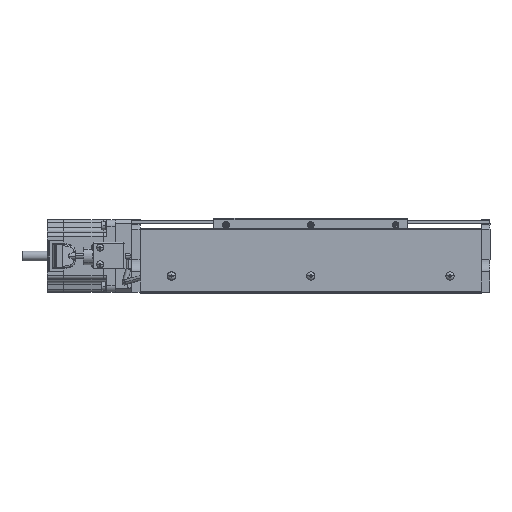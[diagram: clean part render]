
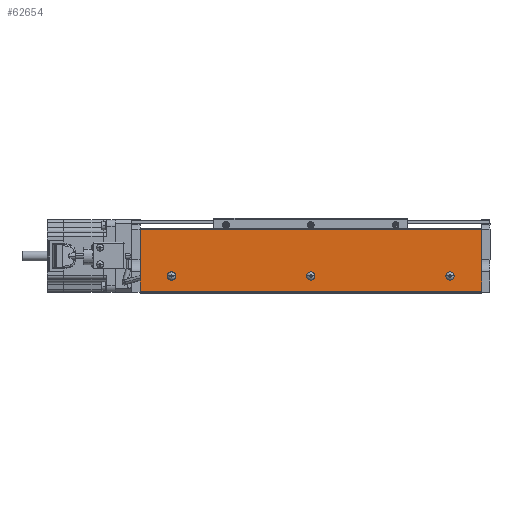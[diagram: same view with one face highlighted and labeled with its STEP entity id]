
A CAD part, front view. The second image highlights one B-rep face of the part: STEP entity #62654.
In plain terms, the highlighted planar face has unit normal (0, -1, 0).
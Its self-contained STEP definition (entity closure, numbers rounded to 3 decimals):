
#312 = ORIENTED_EDGE ( 'NONE', *, *, #68810, .F. ) ;
#1602 = EDGE_LOOP ( 'NONE', ( #312, #11158 ) ) ;
#2568 = EDGE_CURVE ( 'NONE', #46973, #62988, #3007, .T. ) ;
#3007 = LINE ( 'NONE', #74241, #3954 ) ;
#3154 = EDGE_CURVE ( 'NONE', #19044, #29343, #27892, .T. ) ;
#3913 = CARTESIAN_POINT ( 'NONE',  ( 229.676, -212.212, 67. ) ) ;
#3954 = VECTOR ( 'NONE', #21233, 1000. ) ;
#4216 = AXIS2_PLACEMENT_3D ( 'NONE', #46602, #16348, #34142 ) ;
#4936 = DIRECTION ( 'NONE',  ( 0., -1., 0. ) ) ;
#5070 = CIRCLE ( 'NONE', #75294, 3.45 ) ;
#5135 = ORIENTED_EDGE ( 'NONE', *, *, #59334, .F. ) ;
#6083 = AXIS2_PLACEMENT_3D ( 'NONE', #46010, #27389, #74411 ) ;
#6442 = EDGE_LOOP ( 'NONE', ( #70426, #60240 ) ) ;
#7842 = DIRECTION ( 'NONE',  ( 0., -1., 0. ) ) ;
#9581 = CARTESIAN_POINT ( 'NONE',  ( 229.676, -212.212, 67. ) ) ;
#10881 = CARTESIAN_POINT ( 'NONE',  ( 485.676, -212.212, 79.5 ) ) ;
#11158 = ORIENTED_EDGE ( 'NONE', *, *, #47189, .F. ) ;
#12195 = DIRECTION ( 'NONE',  ( 1., 0., 0. ) ) ;
#12552 = CARTESIAN_POINT ( 'NONE',  ( 229.676, -212.212, 118. ) ) ;
#14531 = ORIENTED_EDGE ( 'NONE', *, *, #47085, .T. ) ;
#15801 = VERTEX_POINT ( 'NONE', #73662 ) ;
#16348 = DIRECTION ( 'NONE',  ( 0., -1., 0. ) ) ;
#16663 = CIRCLE ( 'NONE', #6083, 3.45 ) ;
#18165 = CARTESIAN_POINT ( 'NONE',  ( 511.676, -212.212, 119. ) ) ;
#18557 = EDGE_CURVE ( 'NONE', #22705, #15801, #46680, .T. ) ;
#19044 = VERTEX_POINT ( 'NONE', #42120 ) ;
#19672 = EDGE_LOOP ( 'NONE', ( #26114, #14531, #24363, #68625 ) ) ;
#20295 = DIRECTION ( 'NONE',  ( 0., -1., 0. ) ) ;
#21233 = DIRECTION ( 'NONE',  ( 0., 0., -1. ) ) ;
#21409 = DIRECTION ( 'NONE',  ( 1., 0., 0. ) ) ;
#21536 = CARTESIAN_POINT ( 'NONE',  ( 367.226, -212.212, 79.5 ) ) ;
#22705 = VERTEX_POINT ( 'NONE', #37145 ) ;
#24363 = ORIENTED_EDGE ( 'NONE', *, *, #18557, .F. ) ;
#25357 = CARTESIAN_POINT ( 'NONE',  ( 229.676, -212.212, 118. ) ) ;
#25929 = CARTESIAN_POINT ( 'NONE',  ( 374.126, -212.212, 79.5 ) ) ;
#26114 = ORIENTED_EDGE ( 'NONE', *, *, #2568, .T. ) ;
#27389 = DIRECTION ( 'NONE',  ( 0., -1., 0. ) ) ;
#27892 = CIRCLE ( 'NONE', #58273, 3.45 ) ;
#29286 = CARTESIAN_POINT ( 'NONE',  ( 489.126, -212.212, 79.5 ) ) ;
#29343 = VERTEX_POINT ( 'NONE', #29286 ) ;
#29471 = DIRECTION ( 'NONE',  ( 0., -1., 0. ) ) ;
#29930 = EDGE_CURVE ( 'NONE', #41614, #65314, #38230, .T. ) ;
#33120 = FACE_BOUND ( 'NONE', #61591, .T. ) ;
#34142 = DIRECTION ( 'NONE',  ( 0., 0., -1. ) ) ;
#34392 = PLANE ( 'NONE',  #4216 ) ;
#34880 = AXIS2_PLACEMENT_3D ( 'NONE', #59990, #36690, #65924 ) ;
#36690 = DIRECTION ( 'NONE',  ( 0., -1., 0. ) ) ;
#36952 = VERTEX_POINT ( 'NONE', #25929 ) ;
#37145 = CARTESIAN_POINT ( 'NONE',  ( 511.676, -212.212, 118. ) ) ;
#38230 = CIRCLE ( 'NONE', #60933, 3.45 ) ;
#38867 = LINE ( 'NONE', #9581, #72143 ) ;
#41085 = CARTESIAN_POINT ( 'NONE',  ( 255.676, -212.212, 79.5 ) ) ;
#41614 = VERTEX_POINT ( 'NONE', #57759 ) ;
#42120 = CARTESIAN_POINT ( 'NONE',  ( 482.226, -212.212, 79.5 ) ) ;
#42402 = FACE_BOUND ( 'NONE', #1602, .T. ) ;
#42461 = EDGE_CURVE ( 'NONE', #65314, #41614, #71578, .T. ) ;
#43228 = CARTESIAN_POINT ( 'NONE',  ( 485.676, -212.212, 79.5 ) ) ;
#44521 = DIRECTION ( 'NONE',  ( 0., 0., -1. ) ) ;
#46010 = CARTESIAN_POINT ( 'NONE',  ( 370.676, -212.212, 79.5 ) ) ;
#46175 = FACE_BOUND ( 'NONE', #6442, .T. ) ;
#46515 = VECTOR ( 'NONE', #71457, 1000. ) ;
#46551 = DIRECTION ( 'NONE',  ( 1., 0., 0. ) ) ;
#46602 = CARTESIAN_POINT ( 'NONE',  ( 229.676, -212.212, 119. ) ) ;
#46680 = LINE ( 'NONE', #18165, #65118 ) ;
#46973 = VERTEX_POINT ( 'NONE', #25357 ) ;
#47085 = EDGE_CURVE ( 'NONE', #62988, #15801, #38867, .T. ) ;
#47189 = EDGE_CURVE ( 'NONE', #48840, #36952, #16663, .T. ) ;
#48840 = VERTEX_POINT ( 'NONE', #21536 ) ;
#49714 = DIRECTION ( 'NONE',  ( 1., 0., 0. ) ) ;
#49821 = DIRECTION ( 'NONE',  ( 1., 0., 0. ) ) ;
#52644 = FACE_OUTER_BOUND ( 'NONE', #19672, .T. ) ;
#55971 = EDGE_CURVE ( 'NONE', #22705, #46973, #62210, .T. ) ;
#56486 = CARTESIAN_POINT ( 'NONE',  ( 370.676, -212.212, 79.5 ) ) ;
#57759 = CARTESIAN_POINT ( 'NONE',  ( 259.126, -212.212, 79.5 ) ) ;
#58273 = AXIS2_PLACEMENT_3D ( 'NONE', #10881, #4936, #46551 ) ;
#59334 = EDGE_CURVE ( 'NONE', #29343, #19044, #5070, .T. ) ;
#59990 = CARTESIAN_POINT ( 'NONE',  ( 255.676, -212.212, 79.5 ) ) ;
#60240 = ORIENTED_EDGE ( 'NONE', *, *, #42461, .F. ) ;
#60933 = AXIS2_PLACEMENT_3D ( 'NONE', #41085, #29471, #12195 ) ;
#61591 = EDGE_LOOP ( 'NONE', ( #5135, #70918 ) ) ;
#62210 = LINE ( 'NONE', #12552, #46515 ) ;
#62403 = CARTESIAN_POINT ( 'NONE',  ( 252.226, -212.212, 79.5 ) ) ;
#62538 = CIRCLE ( 'NONE', #74385, 3.45 ) ;
#62654 = ADVANCED_FACE ( 'NONE', ( #46175, #42402, #33120, #52644 ), #34392, .T. ) ;
#62988 = VERTEX_POINT ( 'NONE', #3913 ) ;
#65118 = VECTOR ( 'NONE', #44521, 1000. ) ;
#65314 = VERTEX_POINT ( 'NONE', #62403 ) ;
#65924 = DIRECTION ( 'NONE',  ( 1., 0., 0. ) ) ;
#68625 = ORIENTED_EDGE ( 'NONE', *, *, #55971, .T. ) ;
#68810 = EDGE_CURVE ( 'NONE', #36952, #48840, #62538, .T. ) ;
#70426 = ORIENTED_EDGE ( 'NONE', *, *, #29930, .F. ) ;
#70918 = ORIENTED_EDGE ( 'NONE', *, *, #3154, .F. ) ;
#71457 = DIRECTION ( 'NONE',  ( -1., 0., 0. ) ) ;
#71578 = CIRCLE ( 'NONE', #34880, 3.45 ) ;
#72143 = VECTOR ( 'NONE', #21409, 1000. ) ;
#73662 = CARTESIAN_POINT ( 'NONE',  ( 511.676, -212.212, 67. ) ) ;
#74241 = CARTESIAN_POINT ( 'NONE',  ( 229.676, -212.212, 119. ) ) ;
#74385 = AXIS2_PLACEMENT_3D ( 'NONE', #56486, #20295, #49821 ) ;
#74411 = DIRECTION ( 'NONE',  ( 1., 0., 0. ) ) ;
#75294 = AXIS2_PLACEMENT_3D ( 'NONE', #43228, #7842, #49714 ) ;
